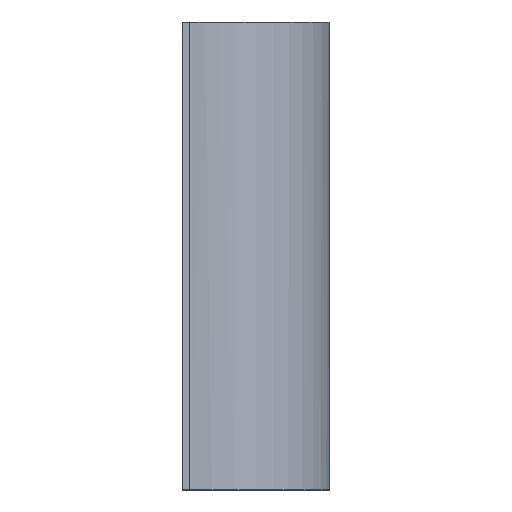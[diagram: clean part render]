
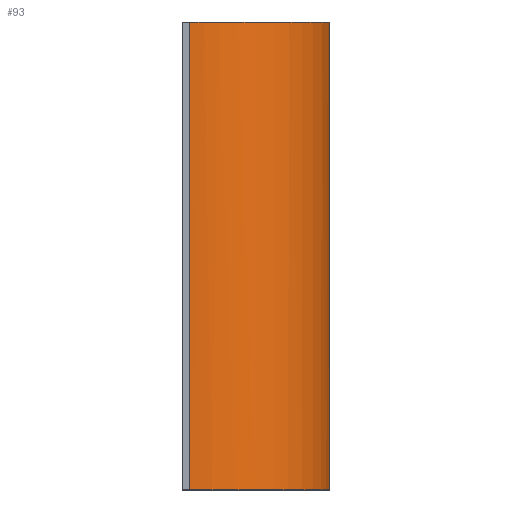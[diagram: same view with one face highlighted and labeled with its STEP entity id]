
A CAD part, left-side view. The second image highlights one B-rep face of the part: STEP entity #93.
In plain terms, the highlighted free-form (B-spline) face has degree [2, 1] with [3, 2] control points.
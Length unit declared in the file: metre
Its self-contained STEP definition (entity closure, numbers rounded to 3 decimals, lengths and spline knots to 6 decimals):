
#93=ADVANCED_FACE('',(#149),#1953,.T.);
#149=FACE_OUTER_BOUND('',#209,.T.);
#209=EDGE_LOOP('',(#385,#386,#387,#388));
#385=ORIENTED_EDGE('',*,*,#1513,.T.);
#386=ORIENTED_EDGE('',*,*,#1514,.T.);
#387=ORIENTED_EDGE('',*,*,#1515,.T.);
#388=ORIENTED_EDGE('',*,*,#1516,.T.);
#673=PCURVE('',#1953,#961);
#674=PCURVE('',#1953,#962);
#675=PCURVE('',#1953,#963);
#676=PCURVE('',#1953,#964);
#680=PCURVE('',#1954,#968);
#702=PCURVE('',#1960,#990);
#728=PCURVE('',#1925,#1016);
#733=PCURVE('',#1926,#1021);
#961=DEFINITIONAL_REPRESENTATION('',(#1201),#3476);
#962=DEFINITIONAL_REPRESENTATION('',(#1202),#3476);
#963=DEFINITIONAL_REPRESENTATION('',(#1203),#3476);
#964=DEFINITIONAL_REPRESENTATION('',(#1204),#3476);
#968=DEFINITIONAL_REPRESENTATION('',(#1208),#3476);
#990=DEFINITIONAL_REPRESENTATION('',(#1230),#3476);
#1016=DEFINITIONAL_REPRESENTATION('',(#1748),#3476);
#1021=DEFINITIONAL_REPRESENTATION('',(#1753),#3476);
#1201=B_SPLINE_CURVE_WITH_KNOTS('',1,(#2846,#2847),.UNSPECIFIED.,.F.,.F.,
(2,2),(74.118391,90.97999),.UNSPECIFIED.);
#1202=B_SPLINE_CURVE_WITH_KNOTS('',1,(#2850,#2851),.UNSPECIFIED.,.F.,.F.,
(2,2),(0.,150.),.UNSPECIFIED.);
#1203=B_SPLINE_CURVE_WITH_KNOTS('',1,(#2855,#2856),.UNSPECIFIED.,.F.,.F.,
(2,2),(-90.97999,-74.118391),.UNSPECIFIED.);
#1204=B_SPLINE_CURVE_WITH_KNOTS('',1,(#2859,#2860),.UNSPECIFIED.,.F.,.F.,
(2,2),(-150.,0.),.UNSPECIFIED.);
#1208=B_SPLINE_CURVE_WITH_KNOTS('',1,(#2875,#2876),.UNSPECIFIED.,.F.,.F.,
(2,2),(0.,150.),.UNSPECIFIED.);
#1230=B_SPLINE_CURVE_WITH_KNOTS('',1,(#2962,#2963),.UNSPECIFIED.,.F.,.F.,
(2,2),(-150.,0.),.UNSPECIFIED.);
#1369=SURFACE_CURVE('',#1705,(#673,#728),.PCURVE_S1.);
#1370=SURFACE_CURVE('',#1706,(#674,#680),.PCURVE_S1.);
#1371=SURFACE_CURVE('',#1707,(#675,#733),.PCURVE_S1.);
#1372=SURFACE_CURVE('',#1708,(#676,#702),.PCURVE_S1.);
#1513=EDGE_CURVE('',#1873,#1874,#1369,.T.);
#1514=EDGE_CURVE('',#1874,#1875,#1370,.T.);
#1515=EDGE_CURVE('',#1875,#1876,#1371,.T.);
#1516=EDGE_CURVE('',#1876,#1873,#1372,.T.);
#1705=(
BOUNDED_CURVE()
B_SPLINE_CURVE(2,(#2843,#2844,#2845),.UNSPECIFIED.,.F.,.F.)
B_SPLINE_CURVE_WITH_KNOTS((3,3),(74.118391,90.97999),
 .UNSPECIFIED.)
CURVE()
GEOMETRIC_REPRESENTATION_ITEM()
RATIONAL_B_SPLINE_CURVE((1.,0.707,1.))
REPRESENTATION_ITEM('')
);
#1706=(
BOUNDED_CURVE()
B_SPLINE_CURVE(1,(#2848,#2849),.UNSPECIFIED.,.F.,.F.)
B_SPLINE_CURVE_WITH_KNOTS((2,2),(0.,150.),.UNSPECIFIED.)
CURVE()
GEOMETRIC_REPRESENTATION_ITEM()
RATIONAL_B_SPLINE_CURVE((1.,1.))
REPRESENTATION_ITEM('')
);
#1707=(
BOUNDED_CURVE()
B_SPLINE_CURVE(2,(#2852,#2853,#2854),.UNSPECIFIED.,.F.,.F.)
B_SPLINE_CURVE_WITH_KNOTS((3,3),(-90.97999,-74.118391),
 .UNSPECIFIED.)
CURVE()
GEOMETRIC_REPRESENTATION_ITEM()
RATIONAL_B_SPLINE_CURVE((1.,0.707,1.))
REPRESENTATION_ITEM('')
);
#1708=(
BOUNDED_CURVE()
B_SPLINE_CURVE(1,(#2857,#2858),.UNSPECIFIED.,.F.,.F.)
B_SPLINE_CURVE_WITH_KNOTS((2,2),(-150.,0.),.UNSPECIFIED.)
CURVE()
GEOMETRIC_REPRESENTATION_ITEM()
RATIONAL_B_SPLINE_CURVE((1.,1.))
REPRESENTATION_ITEM('')
);
#1748=(
BOUNDED_CURVE()
B_SPLINE_CURVE(2,(#3056,#3057,#3058),.UNSPECIFIED.,.F.,.F.)
B_SPLINE_CURVE_WITH_KNOTS((3,3),(74.118391,90.97999),
 .UNSPECIFIED.)
CURVE()
GEOMETRIC_REPRESENTATION_ITEM()
RATIONAL_B_SPLINE_CURVE((1.,0.707,1.))
REPRESENTATION_ITEM('')
);
#1753=(
BOUNDED_CURVE()
B_SPLINE_CURVE(2,(#3071,#3072,#3073),.UNSPECIFIED.,.F.,.F.)
B_SPLINE_CURVE_WITH_KNOTS((3,3),(-90.97999,-74.118391),
 .UNSPECIFIED.)
CURVE()
GEOMETRIC_REPRESENTATION_ITEM()
RATIONAL_B_SPLINE_CURVE((1.,0.707,1.))
REPRESENTATION_ITEM('')
);
#1873=VERTEX_POINT('',#2819);
#1874=VERTEX_POINT('',#2820);
#1875=VERTEX_POINT('',#2821);
#1876=VERTEX_POINT('',#2822);
#1925=B_SPLINE_SURFACE_WITH_KNOTS('',1,1,((#2811,#2812),(#2813,#2814)),
 .UNSPECIFIED.,.F.,.F.,.F.,(2,2),(2,2),(-14.724986,91.341032),
(-95.459415,10.606602),.UNSPECIFIED.);
#1926=B_SPLINE_SURFACE_WITH_KNOTS('',1,1,((#2815,#2816),(#2817,#2818)),
 .UNSPECIFIED.,.F.,.F.,.F.,(2,2),(2,2),(-95.459415,10.606602),
(-14.724986,91.341032),.UNSPECIFIED.);
#1953=(
BOUNDED_SURFACE()
B_SPLINE_SURFACE(2,1,((#2739,#2740),(#2741,#2742),(#2743,#2744)),
 .UNSPECIFIED.,.F.,.F.,.F.)
B_SPLINE_SURFACE_WITH_KNOTS((3,3),(2,2),(74.118391,90.97999),
(0.,150.),.UNSPECIFIED.)
GEOMETRIC_REPRESENTATION_ITEM()
RATIONAL_B_SPLINE_SURFACE(((1.,1.),(0.707,0.707),
(1.,1.)))
REPRESENTATION_ITEM('')
SURFACE()
);
#1954=(
BOUNDED_SURFACE()
B_SPLINE_SURFACE(2,1,((#2745,#2746),(#2747,#2748),(#2749,#2750)),
 .UNSPECIFIED.,.F.,.F.,.F.)
B_SPLINE_SURFACE_WITH_KNOTS((3,3),(2,2),(90.97999,95.09837),
(0.,150.),.UNSPECIFIED.)
GEOMETRIC_REPRESENTATION_ITEM()
RATIONAL_B_SPLINE_SURFACE(((1.,1.),(1.,1.),(1.,1.)))
REPRESENTATION_ITEM('')
SURFACE()
);
#1960=(
BOUNDED_SURFACE()
B_SPLINE_SURFACE(2,1,((#2781,#2782),(#2783,#2784),(#2785,#2786)),
 .UNSPECIFIED.,.F.,.F.,.F.)
B_SPLINE_SURFACE_WITH_KNOTS((3,3),(2,2),(260.19675,264.315141),
(0.,150.),.UNSPECIFIED.)
GEOMETRIC_REPRESENTATION_ITEM()
RATIONAL_B_SPLINE_SURFACE(((1.,1.),(1.,1.),(1.,1.)))
REPRESENTATION_ITEM('')
SURFACE()
);
#2739=CARTESIAN_POINT('',(-58192.396756,-4553.26557,-1.5));
#2740=CARTESIAN_POINT('',(-58192.396756,-4553.26557,268.5));
#2741=CARTESIAN_POINT('',(-58192.396753,-4634.000001,-1.5));
#2742=CARTESIAN_POINT('',(-58192.396753,-4634.000001,268.5));
#2743=CARTESIAN_POINT('',(-58111.662324,-4634.,-1.5));
#2744=CARTESIAN_POINT('',(-58111.662324,-4634.,268.5));
#2745=CARTESIAN_POINT('',(-58111.662324,-4634.,-1.5));
#2746=CARTESIAN_POINT('',(-58111.662324,-4634.,268.5));
#2747=CARTESIAN_POINT('',(-58109.603133,-4634.,-1.5));
#2748=CARTESIAN_POINT('',(-58109.603133,-4634.,268.5));
#2749=CARTESIAN_POINT('',(-58107.543943,-4634.,-1.5));
#2750=CARTESIAN_POINT('',(-58107.543943,-4634.,268.5));
#2781=CARTESIAN_POINT('',(-58192.396756,-4549.147186,-1.5));
#2782=CARTESIAN_POINT('',(-58192.396756,-4549.147186,268.5));
#2783=CARTESIAN_POINT('',(-58192.396756,-4551.206378,-1.5));
#2784=CARTESIAN_POINT('',(-58192.396756,-4551.206378,268.5));
#2785=CARTESIAN_POINT('',(-58192.396756,-4553.26557,-1.5));
#2786=CARTESIAN_POINT('',(-58192.396756,-4553.26557,268.5));
#2811=CARTESIAN_POINT('',(-58096.937341,-4538.540585,-1.5));
#2812=CARTESIAN_POINT('',(-58203.003358,-4538.540585,-1.5));
#2813=CARTESIAN_POINT('',(-58096.937341,-4644.606602,-1.5));
#2814=CARTESIAN_POINT('',(-58203.003358,-4644.606602,-1.5));
#2815=CARTESIAN_POINT('',(-58096.937341,-4538.540585,268.5));
#2816=CARTESIAN_POINT('',(-58096.937341,-4644.606602,268.5));
#2817=CARTESIAN_POINT('',(-58203.003358,-4538.540585,268.5));
#2818=CARTESIAN_POINT('',(-58203.003358,-4644.606602,268.5));
#2819=CARTESIAN_POINT('',(-58192.396756,-4553.26557,-1.5));
#2820=CARTESIAN_POINT('',(-58111.662324,-4634.,-1.5));
#2821=CARTESIAN_POINT('',(-58111.662324,-4634.,268.5));
#2822=CARTESIAN_POINT('',(-58192.396756,-4553.26557,268.5));
#2843=CARTESIAN_POINT('',(-58192.396756,-4553.26557,-1.5));
#2844=CARTESIAN_POINT('',(-58192.396753,-4634.000001,-1.5));
#2845=CARTESIAN_POINT('',(-58111.662324,-4634.,-1.5));
#2846=CARTESIAN_POINT('',(74.118,0.));
#2847=CARTESIAN_POINT('',(90.98,0.));
#2848=CARTESIAN_POINT('',(-58111.662324,-4634.,-1.5));
#2849=CARTESIAN_POINT('',(-58111.662324,-4634.,268.5));
#2850=CARTESIAN_POINT('',(90.98,0.));
#2851=CARTESIAN_POINT('',(90.98,150.));
#2852=CARTESIAN_POINT('',(-58111.662324,-4634.,268.5));
#2853=CARTESIAN_POINT('',(-58192.396753,-4634.000001,268.5));
#2854=CARTESIAN_POINT('',(-58192.396756,-4553.26557,268.5));
#2855=CARTESIAN_POINT('',(90.98,150.));
#2856=CARTESIAN_POINT('',(74.118,150.));
#2857=CARTESIAN_POINT('',(-58192.396756,-4553.26557,268.5));
#2858=CARTESIAN_POINT('',(-58192.396756,-4553.26557,-1.5));
#2859=CARTESIAN_POINT('',(74.118,150.));
#2860=CARTESIAN_POINT('',(74.118,0.));
#2875=CARTESIAN_POINT('',(90.98,0.));
#2876=CARTESIAN_POINT('',(90.98,150.));
#2962=CARTESIAN_POINT('',(264.315,150.));
#2963=CARTESIAN_POINT('',(264.315,0.));
#3056=CARTESIAN_POINT('',(0.,0.));
#3057=CARTESIAN_POINT('',(80.734,0.));
#3058=CARTESIAN_POINT('',(80.734,-80.734));
#3071=CARTESIAN_POINT('',(-80.734,80.734));
#3072=CARTESIAN_POINT('',(0.,80.734));
#3073=CARTESIAN_POINT('',(0.,0.));
#3476=(
GEOMETRIC_REPRESENTATION_CONTEXT(2)
PARAMETRIC_REPRESENTATION_CONTEXT()
REPRESENTATION_CONTEXT('pspace','')
);
